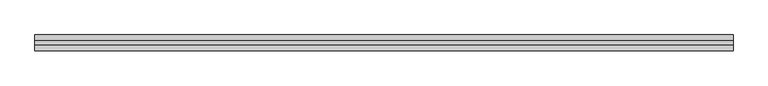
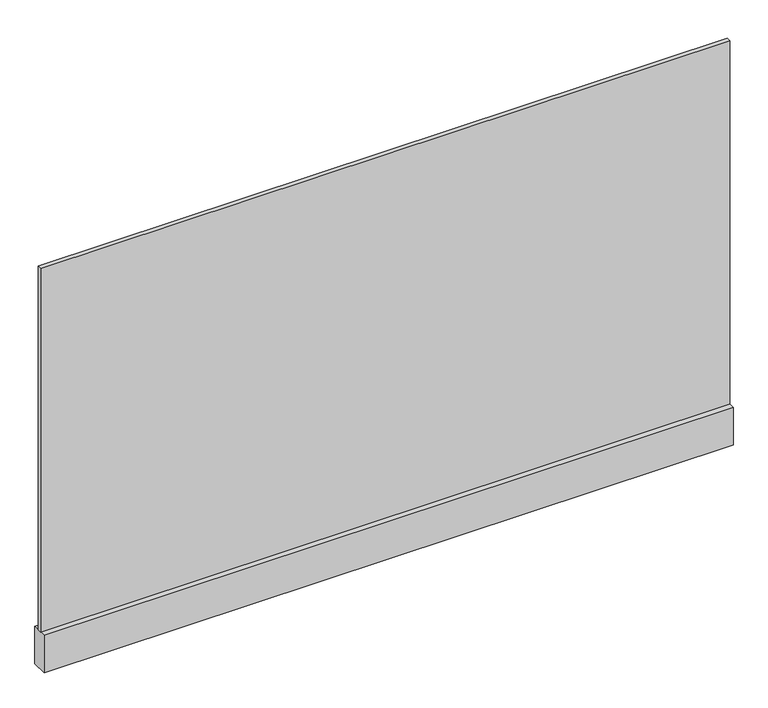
"""IFC4 building model written with IfcOpenShell, lengths in millimetres: plate geometry, r パネル FIX 下框付 : 框 H100."""

from ifc_helpers import new_model, si_unit, frame, origin, origin_with_axes, place, context, project, spatial, polyline, outline, extrude, source, transform, mapped, element, save


def plate_977e9fc7(model_context):
    return source(origin(), model_context, "Body", "SweptSolid", [
        extrude(outline(polyline([(-873.3333332, 5.0), (873.3333332, 5.0), (873.3333332, -5.0), (-873.3333332, -5.0), (-873.3333332, 5.0)])), frame((0.0, 0.0, 100.0), z_axis=(0.0, 0.0, 1.0), x_axis=(1.0, 0.0, 0.0)), (0.0, 0.0, 1.0), 975.0),
        extrude(outline(polyline([(-873.3333332, 20.0), (873.3333332, 20.0), (873.3333332, -20.0), (-873.3333332, -20.0), (-873.3333332, 20.0)])), origin_with_axes(), (0.0, 0.0, 1.0), 100.0),
    ])


if __name__ == "__main__":
    model = new_model("IFC4")
    model_context = context("Model", 3, world=origin())
    ifc_project = project(units=[si_unit("LENGTHUNIT", "METRE", prefix="MILLI")], contexts=[model_context])
    site = spatial("IfcSite", under=ifc_project)
    building = spatial("IfcBuilding", under=site)
    placement = place(None, origin())
    plate_shape = plate_977e9fc7(model_context)
    element("IfcPlate", 1, ObjectType="r パネル FIX 下框付 : 框 H100", at=placement, inside=building, context=model_context, shape_type="MappedRepresentation", body=[
        mapped(plate_shape, transform((0.0, 0.0, 0.0), x_axis=(1.0, 0.0, 0.0), y_axis=(0.0, 1.0, 0.0), z_axis=(0.0, 0.0, 1.0))),
    ])
    save(model, "model.ifc")
